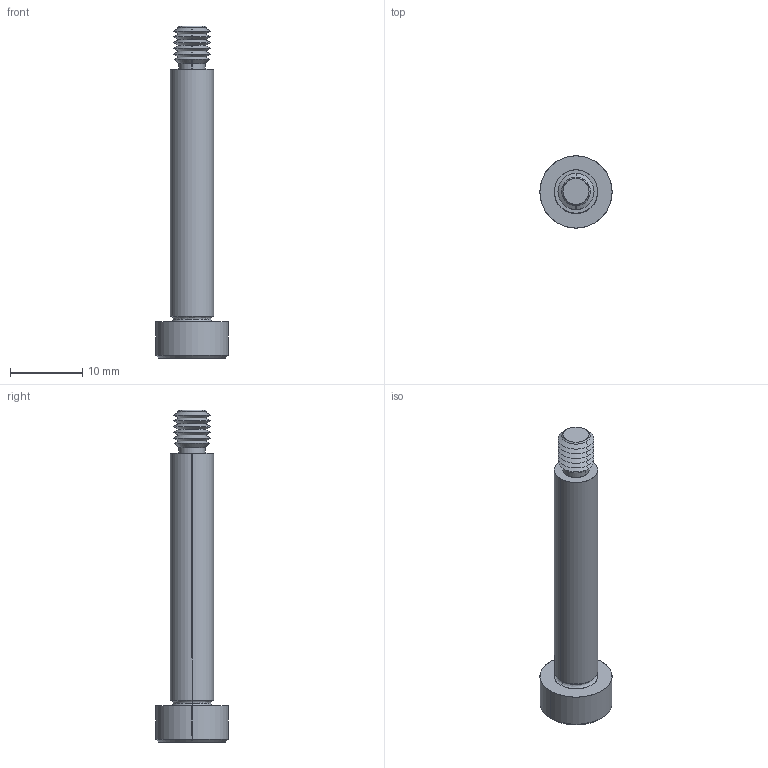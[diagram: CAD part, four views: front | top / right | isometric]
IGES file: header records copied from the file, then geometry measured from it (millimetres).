
Start section: SolidWorks IGES file using analytic representation for surfaces
Global section: file name: C:\Users\IanO\Documents\Temp Folder\GENERAL\SCREW REVISION\P0130_v2\P0130.T5_v2_20220106_IGES\P0130.060-035-T5.igs; native system: SolidWorks 2019; preprocessor: SolidWorks 2019; author: IanO; date: 220106.222551; units: millimetre
Bounding box: 10 x 10 x 46 mm (x, y, z)
Surface area: 1147.3 mm2 (no closed solid volume)
Topology: 0 solids, 0 shells, 64 faces, 504 edges, 502 vertices
Faces by surface type: revolution 44, bspline 20
